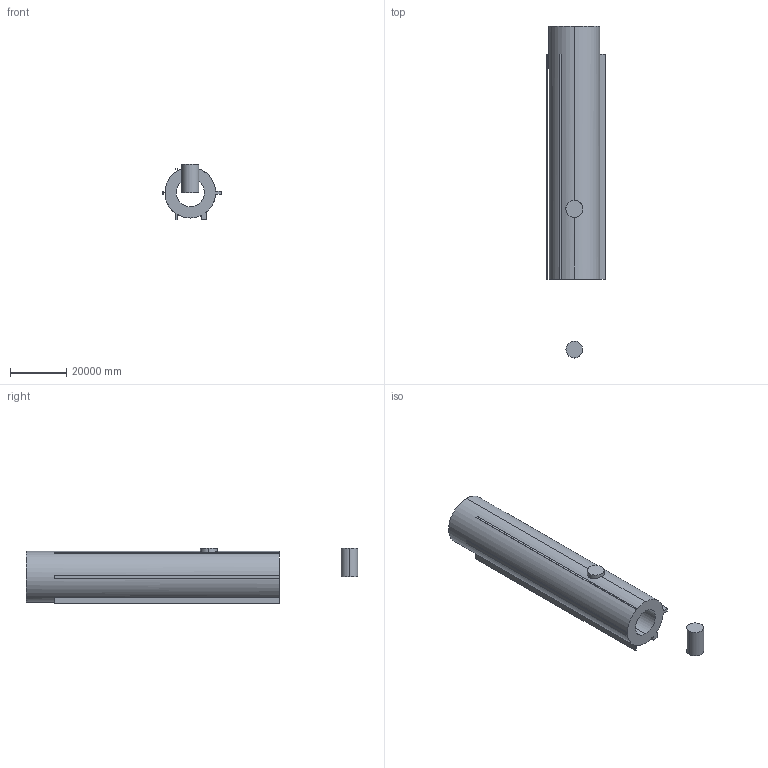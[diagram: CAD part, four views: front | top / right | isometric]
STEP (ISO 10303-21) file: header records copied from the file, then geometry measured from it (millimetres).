
FILE_DESCRIPTION (( 'STEP AP203' ), '1' );
FILE_NAME ('GEO_01_Central_Transit_Core.STEP', '2026-10-29T17:28:52', ( 'user' ), ( '' ), 'SwSTEP 2.0', 'SolidWorks 2026', '' );
FILE_SCHEMA (( 'CONFIG_CONTROL_DESIGN' ));
Length unit declared in the file: inch
Products named in the file (1): GEO_01_Central_Transit_Core
Bounding box: 21000 x 118000 x 19893.27 mm (x, y, z)
Volume: 16956215668947.1 mm3; surface area: 10043315130.9 mm2
Topology: 4 solids, 4 shells, 41 faces, 99 edges, 66 vertices
Faces by surface type: plane 31, cylinder 10
Entity records: 1997 total; most frequent: CARTESIAN_POINT 948, ORIENTED_EDGE 198, DIRECTION 197, EDGE_CURVE 99, LINE 69, VECTOR 69, VERTEX_POINT 66, AXIS2_PLACEMENT_3D 64
